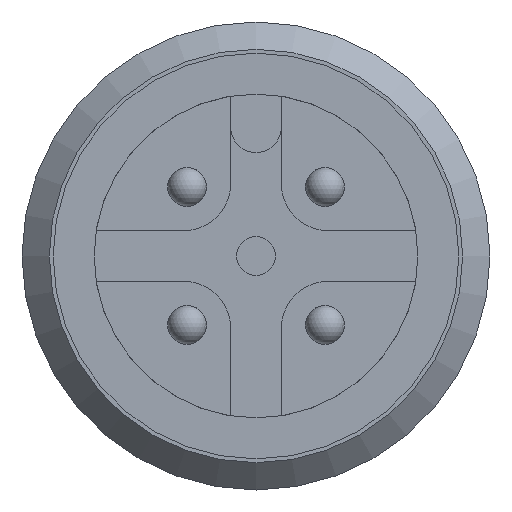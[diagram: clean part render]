
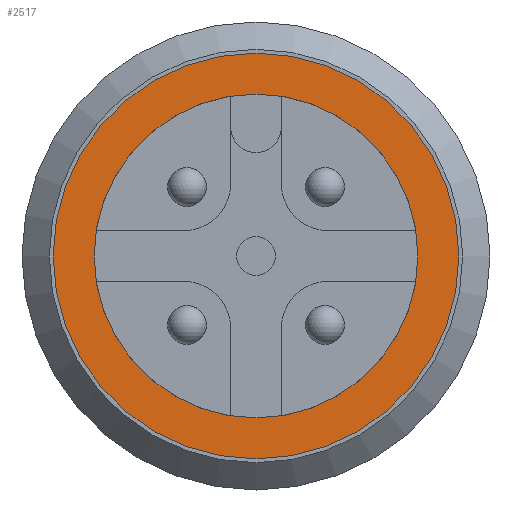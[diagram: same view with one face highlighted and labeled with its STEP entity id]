
A CAD part, front view. The second image highlights one B-rep face of the part: STEP entity #2517.
In plain terms, the highlighted planar face has unit normal (0, -1, 0).
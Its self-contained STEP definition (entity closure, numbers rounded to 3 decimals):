
#2486=CARTESIAN_POINT('',(0.,-1.,5.2));
#2487=VERTEX_POINT('',#2486);
#2488=CARTESIAN_POINT('',(0.,-1.,0.));
#2489=DIRECTION('',(0.0,1.0,0.0));
#2490=DIRECTION('',(0.0,0.0,1.0));
#2491=AXIS2_PLACEMENT_3D('',#2488,#2489,#2490);
#2492=CIRCLE('',#2491,5.2);
#2493=EDGE_CURVE('',#2487,#2487,#2492,.T.);
#2498=CARTESIAN_POINT('',(0.,-1.,4.675));
#2499=DIRECTION('',(0.0,-1.0,0.0));
#2500=DIRECTION('',(0.0,0.0,-1.0));
#2501=AXIS2_PLACEMENT_3D('',#2498,#2499,#2500);
#2502=PLANE('',#2501);
#2503=ORIENTED_EDGE('',*,*,#2493,.F.);
#2504=EDGE_LOOP('',(#2503));
#2505=FACE_OUTER_BOUND('',#2504,.T.);
#2506=CARTESIAN_POINT('',(0.,-1.,4.15));
#2507=VERTEX_POINT('',#2506);
#2508=CARTESIAN_POINT('',(0.,-1.,0.));
#2509=DIRECTION('',(0.0,1.0,0.0));
#2510=DIRECTION('',(0.0,0.0,1.0));
#2511=AXIS2_PLACEMENT_3D('',#2508,#2509,#2510);
#2512=CIRCLE('',#2511,4.15);
#2513=EDGE_CURVE('',#2507,#2507,#2512,.T.);
#2514=ORIENTED_EDGE('',*,*,#2513,.T.);
#2515=EDGE_LOOP('',(#2514));
#2516=FACE_BOUND('',#2515,.T.);
#2517=ADVANCED_FACE('',(#2505,#2516),#2502,.T.);
